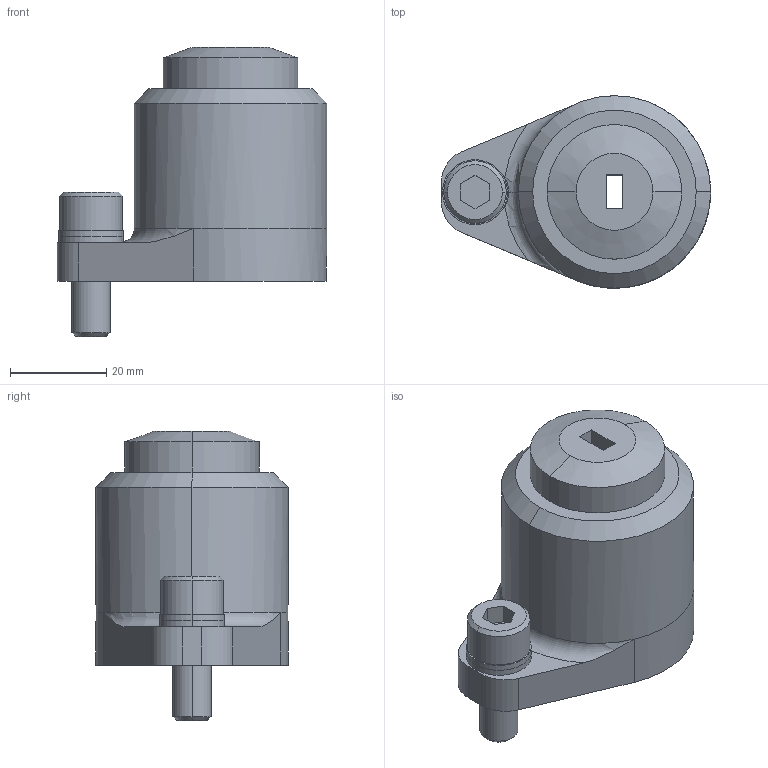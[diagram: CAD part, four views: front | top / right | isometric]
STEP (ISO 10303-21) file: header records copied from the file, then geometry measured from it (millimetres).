
FILE_DESCRIPTION(/* description */ (''),/* implementation_level */ '2;1');
FILE_NAME(/* name */ '3d_sprd10-g-p7.00-w3.50-k0_05420_r00.stp',/* time_stamp */ '2011-01-10T14:10:07+09:00',/* author */ ('MISUMI'),/* organization */ (''),/* preprocessor_version */ 'ST-DEVELOPER v11',/* originating_system */ 'UGS - NX 5.0',/* authorisation */ '');
FILE_SCHEMA (('CONFIG_CONTROL_DESIGN'));
Length unit declared in the file: millimetre
Products named in the file (1): 3d_sprd10-g-p7.00-w3.50-k0_05420_r00
Bounding box: 56 x 40 x 60.1 mm (x, y, z)
Volume: 52937.3 mm3; surface area: 23726.5 mm2
Topology: 6 solids, 6 shells, 76 faces, 169 edges, 109 vertices
Faces by surface type: cylinder 36, plane 30, cone 8, torus 2
Entity records: 2236 total; most frequent: DIRECTION 402, CARTESIAN_POINT 371, ORIENTED_EDGE 338, EDGE_CURVE 169, AXIS2_PLACEMENT_3D 160, VERTEX_POINT 109, EDGE_LOOP 92, CIRCLE 83
